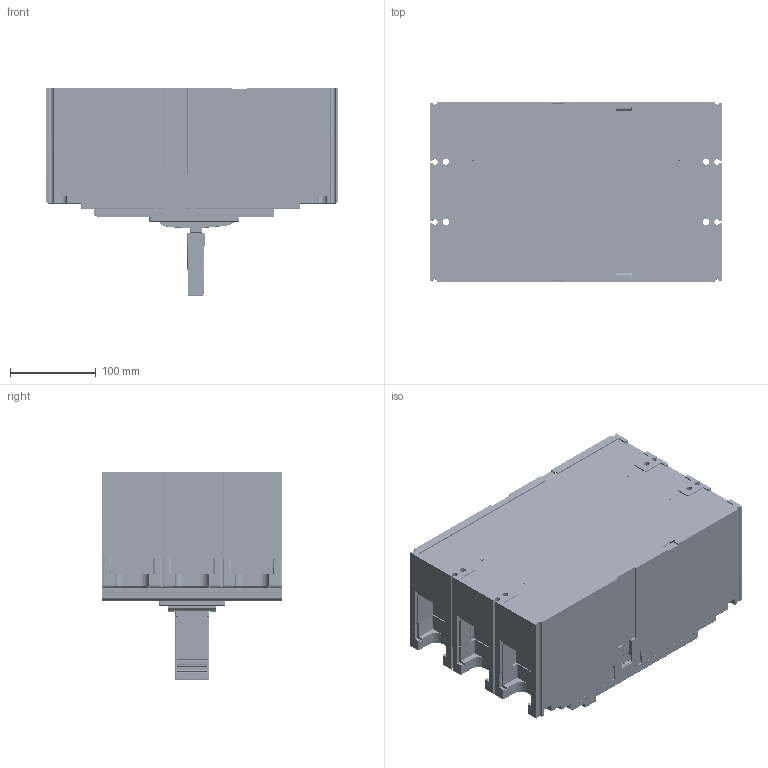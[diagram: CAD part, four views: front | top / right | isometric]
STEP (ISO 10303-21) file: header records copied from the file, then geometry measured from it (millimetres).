
FILE_DESCRIPTION (( 'STEP AP214' ), '1' );
FILE_NAME ('TENGEN_TGM1N-1600_3P.STEP', '2026-03-09T08:48:58', ( '' ), ( '' ), 'SwSTEP 2.0', 'SolidWorks 2024', '' );
FILE_SCHEMA (( 'AUTOMOTIVE_DESIGN' ));
Products named in the file (1): TENGEN_TGM1N-1600_3P
Bounding box: 340 x 210 x 242.81 mm (x, y, z)
Volume: 8615345 mm3; surface area: 836347.7 mm2
Topology: 1 solids, 22 shells, 14402 faces, 36155 edges, 23227 vertices
Faces by surface type: plane 12070, cylinder 1542, sphere 328, bspline 197, torus 181, cone 84
Full cylindrical faces by diameter (mm): 2.9 x1, 3.8 x3, 4.6 x1, 4.7 x5, 5 x4, 5.5 x11, 6 x3, 9 x6, 13 x4
Entity records: 431938 total; most frequent: CARTESIAN_POINT 88393, ORIENTED_EDGE 71512, DIRECTION 66927, EDGE_CURVE 35756, LINE 31381, VECTOR 31381, VERTEX_POINT 23161, AXIS2_PLACEMENT_3D 17773
